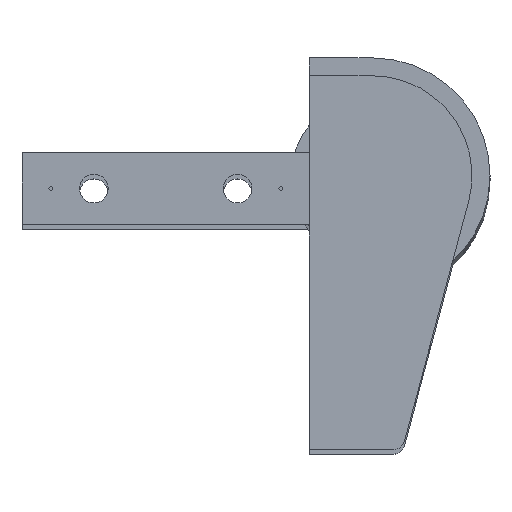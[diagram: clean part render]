
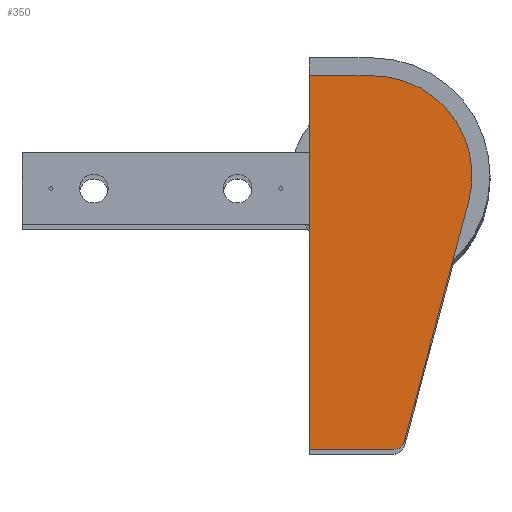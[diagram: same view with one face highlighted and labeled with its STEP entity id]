
A CAD part, top view. The second image highlights one B-rep face of the part: STEP entity #350.
In plain terms, the highlighted planar face has unit normal (0, 0, 1).
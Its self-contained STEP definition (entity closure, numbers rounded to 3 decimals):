
#4 = ORIENTED_EDGE ( 'NONE', *, *, #1359, .T. ) ;
#44 = VERTEX_POINT ( 'NONE', #122 ) ;
#71 = CARTESIAN_POINT ( 'NONE',  ( 3267.2, -5., 386.5 ) ) ;
#122 = CARTESIAN_POINT ( 'NONE',  ( 3249.7, -5., 386.5 ) ) ;
#127 = EDGE_CURVE ( 'NONE', #448, #872, #813, .T. ) ;
#252 = LINE ( 'NONE', #1796, #1290 ) ;
#298 = DIRECTION ( 'NONE',  ( -1., 0., 0. ) ) ;
#305 = CARTESIAN_POINT ( 'NONE',  ( 3267.2, -32.8, 386.5 ) ) ;
#350 = ADVANCED_FACE ( 'NONE', ( #1903 ), #780, .T. ) ;
#448 = VERTEX_POINT ( 'NONE', #1326 ) ;
#460 = CARTESIAN_POINT ( 'NONE',  ( 3276.159, -106.776, 386.5 ) ) ;
#655 = EDGE_LOOP ( 'NONE', ( #4, #820, #1755, #983, #2107, #1037 ) ) ;
#657 = CARTESIAN_POINT ( 'NONE',  ( 3249.7, -46.4, 386.5 ) ) ;
#725 = LINE ( 'NONE', #657, #2015 ) ;
#774 = DIRECTION ( 'NONE',  ( 0., 0., 1. ) ) ;
#780 = PLANE ( 'NONE',  #1157 ) ;
#803 = VECTOR ( 'NONE', #2111, 1000. ) ;
#813 = CIRCLE ( 'NONE', #1527, 3. ) ;
#820 = ORIENTED_EDGE ( 'NONE', *, *, #2185, .T. ) ;
#872 = VERTEX_POINT ( 'NONE', #460 ) ;
#983 = ORIENTED_EDGE ( 'NONE', *, *, #1174, .T. ) ;
#1037 = ORIENTED_EDGE ( 'NONE', *, *, #1716, .T. ) ;
#1142 = CARTESIAN_POINT ( 'NONE',  ( 3273.261, -106., 386.5 ) ) ;
#1157 = AXIS2_PLACEMENT_3D ( 'NONE', #1142, #774, #1671 ) ;
#1174 = EDGE_CURVE ( 'NONE', #2066, #448, #1925, .T. ) ;
#1185 = DIRECTION ( 'NONE',  ( 0., 0., 1. ) ) ;
#1213 = CARTESIAN_POINT ( 'NONE',  ( 3249.7, -109., 386.5 ) ) ;
#1283 = DIRECTION ( 'NONE',  ( 0.259, 0.966, 0. ) ) ;
#1290 = VECTOR ( 'NONE', #1283, 1000. ) ;
#1300 = VERTEX_POINT ( 'NONE', #71 ) ;
#1326 = CARTESIAN_POINT ( 'NONE',  ( 3273.261, -109., 386.5 ) ) ;
#1359 = EDGE_CURVE ( 'NONE', #1770, #1300, #1745, .T. ) ;
#1443 = LINE ( 'NONE', #2275, #803 ) ;
#1527 = AXIS2_PLACEMENT_3D ( 'NONE', #2076, #2093, #2260 ) ;
#1632 = DIRECTION ( 'NONE',  ( 1., 0., 0. ) ) ;
#1663 = CARTESIAN_POINT ( 'NONE',  ( 3294.053, -39.995, 386.5 ) ) ;
#1671 = DIRECTION ( 'NONE',  ( 1., 0., 0. ) ) ;
#1716 = EDGE_CURVE ( 'NONE', #872, #1770, #252, .T. ) ;
#1745 = CIRCLE ( 'NONE', #2218, 27.8 ) ;
#1755 = ORIENTED_EDGE ( 'NONE', *, *, #1982, .T. ) ;
#1770 = VERTEX_POINT ( 'NONE', #1663 ) ;
#1796 = CARTESIAN_POINT ( 'NONE',  ( 3276.159, -106.776, 386.5 ) ) ;
#1903 = FACE_OUTER_BOUND ( 'NONE', #655, .T. ) ;
#1925 = LINE ( 'NONE', #1984, #2241 ) ;
#1982 = EDGE_CURVE ( 'NONE', #44, #2066, #725, .T. ) ;
#1984 = CARTESIAN_POINT ( 'NONE',  ( 3249.7, -109., 386.5 ) ) ;
#2015 = VECTOR ( 'NONE', #2254, 1000. ) ;
#2066 = VERTEX_POINT ( 'NONE', #1213 ) ;
#2076 = CARTESIAN_POINT ( 'NONE',  ( 3273.261, -106., 386.5 ) ) ;
#2093 = DIRECTION ( 'NONE',  ( 0., 0., 1. ) ) ;
#2107 = ORIENTED_EDGE ( 'NONE', *, *, #127, .T. ) ;
#2111 = DIRECTION ( 'NONE',  ( -1., 0., 0. ) ) ;
#2185 = EDGE_CURVE ( 'NONE', #1300, #44, #1443, .T. ) ;
#2218 = AXIS2_PLACEMENT_3D ( 'NONE', #305, #1185, #298 ) ;
#2241 = VECTOR ( 'NONE', #1632, 1000. ) ;
#2254 = DIRECTION ( 'NONE',  ( 0., -1., 0. ) ) ;
#2260 = DIRECTION ( 'NONE',  ( -1., 0., 0. ) ) ;
#2275 = CARTESIAN_POINT ( 'NONE',  ( 3273.261, -5., 386.5 ) ) ;
